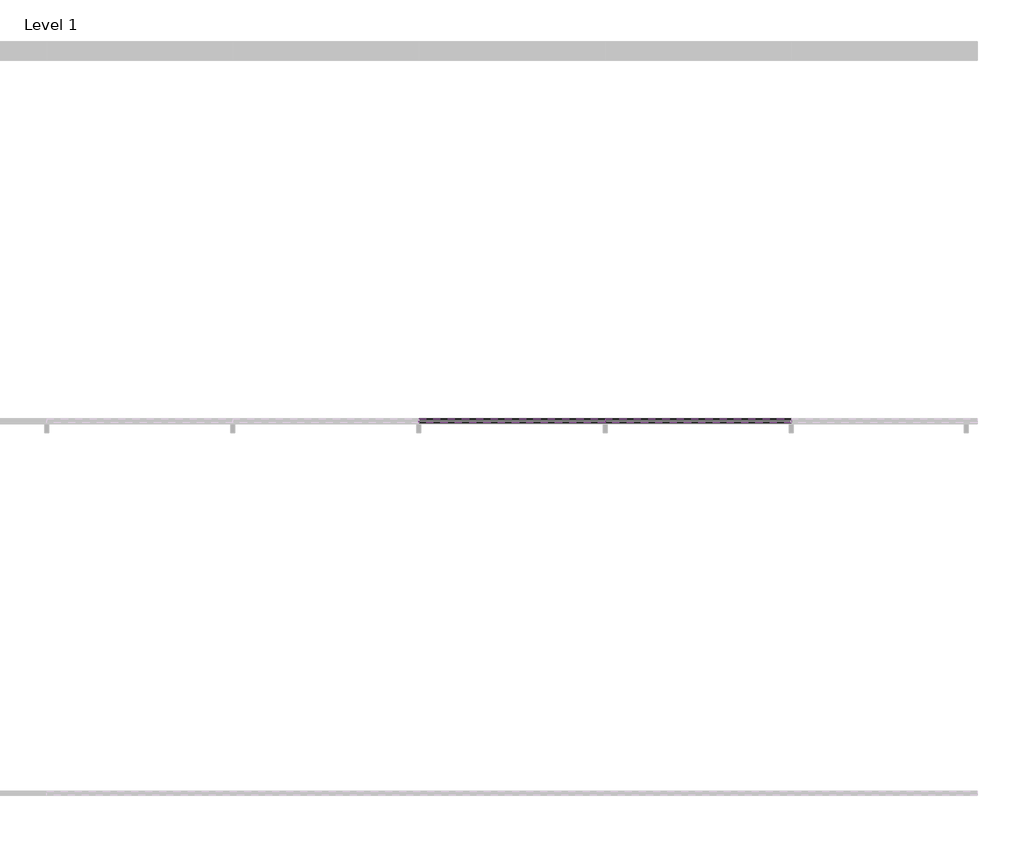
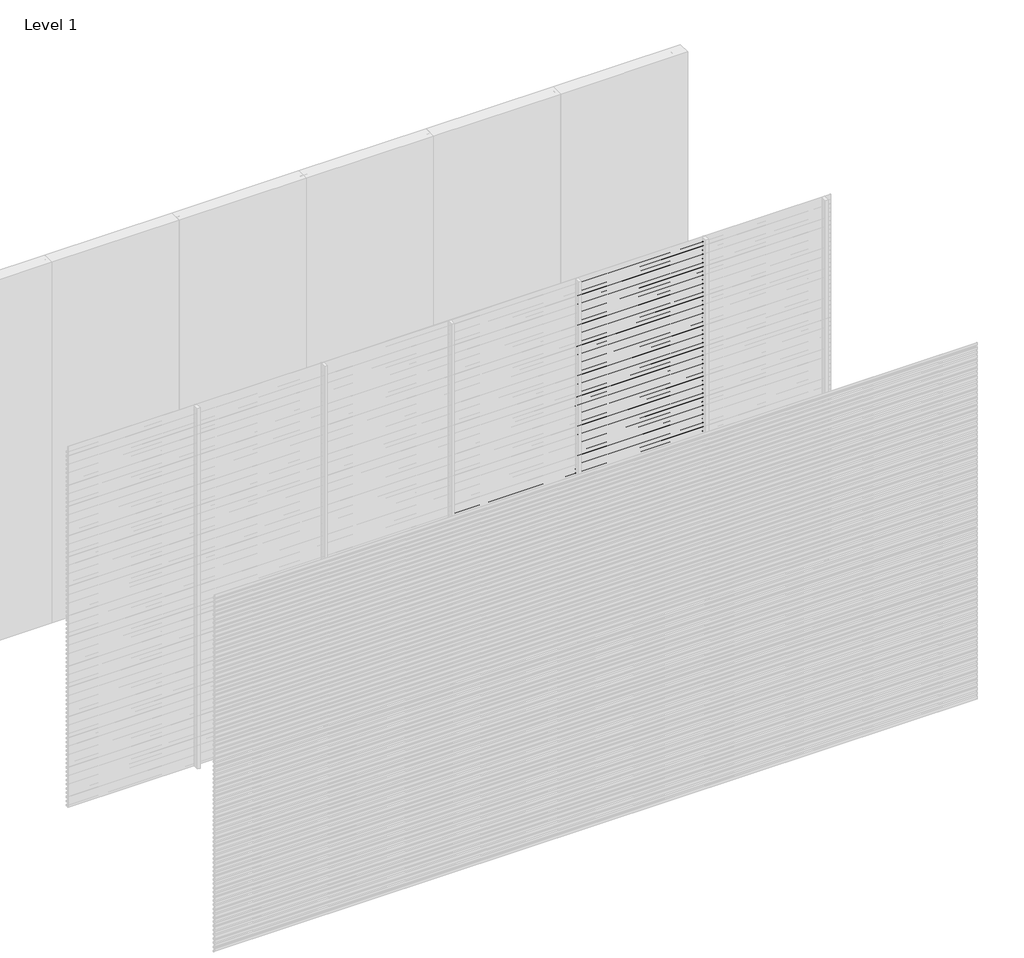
# One storey, part 18 of 25: 97 proxies.
"""IFC4 building model written with IfcOpenShell, lengths in millimetres."""

from ifc_helpers import new_model, si_unit, frame, origin, place, context, project, spatial, polyline, outline, extrude, element, save

model = new_model("IFC4")

# Units and contexts
model_context = context("Model", 3, world=origin())
ifc_project = project(units=[si_unit("LENGTHUNIT", "METRE", prefix="MILLI")], contexts=[model_context])

# Site, building, storey
site = spatial("IfcSite", under=ifc_project)
building = spatial("IfcBuilding", under=site)
storey = spatial("IfcBuildingStorey", under=building, Name="Level 1", Elevation=0.0)

# Proxies
placement = place(None, origin())
element("IfcBuildingElementProxy", 1, Name="Wall Sweeps", at=placement, inside=storey, context=model_context, shape_type="SweptSolid", body=[
    extrude(outline(polyline([(-5995.0, 1435.0), (-5995.0, 1423.942893), (-5976.0, 1408.0), (-5976.0, 1395.0), (-5997.0, 1412.6210923), (-5997.0, 1435.0), (-5995.0, 1435.0)])), frame((3000.0, 0.0, 0.0), z_axis=(1.0, 0.0, 0.0), x_axis=(0.0, 1.0, 0.0)), (0.0, 0.0, 1.0), 1000.0),
])
element("IfcBuildingElementProxy", 2, Name="Wall Sweeps", at=placement, inside=storey, context=model_context, shape_type="SweptSolid", body=[
    extrude(outline(polyline([(-5995.0, 1400.0), (-5995.0, 1388.942893), (-5976.0, 1373.0), (-5976.0, 1360.0), (-5997.0, 1377.6210923), (-5997.0, 1400.0), (-5995.0, 1400.0)])), frame((3000.0, 0.0, 0.0), z_axis=(1.0, 0.0, 0.0), x_axis=(0.0, 1.0, 0.0)), (0.0, 0.0, 1.0), 1000.0),
])
element("IfcBuildingElementProxy", 3, Name="Wall Sweeps", at=placement, inside=storey, context=model_context, shape_type="SweptSolid", body=[
    extrude(outline(polyline([(-5995.0, 1365.0), (-5995.0, 1353.942893), (-5976.0, 1338.0), (-5976.0, 1325.0), (-5997.0, 1342.6210923), (-5997.0, 1365.0), (-5995.0, 1365.0)])), frame((3000.0, 0.0, 0.0), z_axis=(1.0, 0.0, 0.0), x_axis=(0.0, 1.0, 0.0)), (0.0, 0.0, 1.0), 1000.0),
])
element("IfcBuildingElementProxy", 4, Name="Wall Sweeps", at=placement, inside=storey, context=model_context, shape_type="SweptSolid", body=[
    extrude(outline(polyline([(-5995.0, 1330.0), (-5995.0, 1318.942893), (-5976.0, 1303.0), (-5976.0, 1290.0), (-5997.0, 1307.6210923), (-5997.0, 1330.0), (-5995.0, 1330.0)])), frame((3000.0, 0.0, 0.0), z_axis=(1.0, 0.0, 0.0), x_axis=(0.0, 1.0, 0.0)), (0.0, 0.0, 1.0), 1000.0),
])
element("IfcBuildingElementProxy", 5, Name="Wall Sweeps", at=placement, inside=storey, context=model_context, shape_type="SweptSolid", body=[
    extrude(outline(polyline([(-5995.0, 1295.0), (-5995.0, 1283.942893), (-5976.0, 1268.0), (-5976.0, 1255.0), (-5997.0, 1272.6210923), (-5997.0, 1295.0), (-5995.0, 1295.0)])), frame((3000.0, 0.0, 0.0), z_axis=(1.0, 0.0, 0.0), x_axis=(0.0, 1.0, 0.0)), (0.0, 0.0, 1.0), 1000.0),
])
element("IfcBuildingElementProxy", 6, Name="Wall Sweeps", at=placement, inside=storey, context=model_context, shape_type="SweptSolid", body=[
    extrude(outline(polyline([(-5995.0, 1260.0), (-5995.0, 1248.942893), (-5976.0, 1233.0), (-5976.0, 1220.0), (-5997.0, 1237.6210923), (-5997.0, 1260.0), (-5995.0, 1260.0)])), frame((3000.0, 0.0, 0.0), z_axis=(1.0, 0.0, 0.0), x_axis=(0.0, 1.0, 0.0)), (0.0, 0.0, 1.0), 1000.0),
])
element("IfcBuildingElementProxy", 7, Name="Wall Sweeps", at=placement, inside=storey, context=model_context, shape_type="SweptSolid", body=[
    extrude(outline(polyline([(-5995.0, 1225.0), (-5995.0, 1213.942893), (-5976.0, 1198.0), (-5976.0, 1185.0), (-5997.0, 1202.6210923), (-5997.0, 1225.0), (-5995.0, 1225.0)])), frame((3000.0, 0.0, 0.0), z_axis=(1.0, 0.0, 0.0), x_axis=(0.0, 1.0, 0.0)), (0.0, 0.0, 1.0), 1000.0),
])
element("IfcBuildingElementProxy", 8, Name="Wall Sweeps", at=placement, inside=storey, context=model_context, shape_type="SweptSolid", body=[
    extrude(outline(polyline([(-5995.0, 1190.0), (-5995.0, 1178.942893), (-5976.0, 1163.0), (-5976.0, 1150.0), (-5997.0, 1167.6210923), (-5997.0, 1190.0), (-5995.0, 1190.0)])), frame((3000.0, 0.0, 0.0), z_axis=(1.0, 0.0, 0.0), x_axis=(0.0, 1.0, 0.0)), (0.0, 0.0, 1.0), 1000.0),
])
element("IfcBuildingElementProxy", 9, Name="Wall Sweeps", at=placement, inside=storey, context=model_context, shape_type="SweptSolid", body=[
    extrude(outline(polyline([(-5995.0, 1155.0), (-5995.0, 1143.942893), (-5976.0, 1128.0), (-5976.0, 1115.0), (-5997.0, 1132.6210923), (-5997.0, 1155.0), (-5995.0, 1155.0)])), frame((3000.0, 0.0, 0.0), z_axis=(1.0, 0.0, 0.0), x_axis=(0.0, 1.0, 0.0)), (0.0, 0.0, 1.0), 1000.0),
])
element("IfcBuildingElementProxy", 10, Name="Wall Sweeps", at=placement, inside=storey, context=model_context, shape_type="SweptSolid", body=[
    extrude(outline(polyline([(-5995.0, 1120.0), (-5995.0, 1108.942893), (-5976.0, 1093.0), (-5976.0, 1080.0), (-5997.0, 1097.6210923), (-5997.0, 1120.0), (-5995.0, 1120.0)])), frame((3000.0, 0.0, 0.0), z_axis=(1.0, 0.0, 0.0), x_axis=(0.0, 1.0, 0.0)), (0.0, 0.0, 1.0), 1000.0),
])
element("IfcBuildingElementProxy", 11, Name="Wall Sweeps", at=placement, inside=storey, context=model_context, shape_type="SweptSolid", body=[
    extrude(outline(polyline([(-5995.0, 1085.0), (-5995.0, 1073.942893), (-5976.0, 1058.0), (-5976.0, 1045.0), (-5997.0, 1062.6210923), (-5997.0, 1085.0), (-5995.0, 1085.0)])), frame((3000.0, 0.0, 0.0), z_axis=(1.0, 0.0, 0.0), x_axis=(0.0, 1.0, 0.0)), (0.0, 0.0, 1.0), 1000.0),
])
element("IfcBuildingElementProxy", 12, Name="Wall Sweeps", at=placement, inside=storey, context=model_context, shape_type="SweptSolid", body=[
    extrude(outline(polyline([(-5995.0, 1050.0), (-5995.0, 1038.942893), (-5976.0, 1023.0), (-5976.0, 1010.0), (-5997.0, 1027.6210923), (-5997.0, 1050.0), (-5995.0, 1050.0)])), frame((3000.0, 0.0, 0.0), z_axis=(1.0, 0.0, 0.0), x_axis=(0.0, 1.0, 0.0)), (0.0, 0.0, 1.0), 1000.0),
])
element("IfcBuildingElementProxy", 13, Name="Wall Sweeps", at=placement, inside=storey, context=model_context, shape_type="SweptSolid", body=[
    extrude(outline(polyline([(-5995.0, 1015.0), (-5995.0, 1003.942893), (-5976.0, 988.0), (-5976.0, 975.0), (-5997.0, 992.6210923), (-5997.0, 1015.0), (-5995.0, 1015.0)])), frame((3000.0, 0.0, 0.0), z_axis=(1.0, 0.0, 0.0), x_axis=(0.0, 1.0, 0.0)), (0.0, 0.0, 1.0), 1000.0),
])
element("IfcBuildingElementProxy", 14, Name="Wall Sweeps", at=placement, inside=storey, context=model_context, shape_type="SweptSolid", body=[
    extrude(outline(polyline([(-5995.0, 980.0), (-5995.0, 968.942893), (-5976.0, 953.0), (-5976.0, 940.0), (-5997.0, 957.6210923), (-5997.0, 980.0), (-5995.0, 980.0)])), frame((3000.0, 0.0, 0.0), z_axis=(1.0, 0.0, 0.0), x_axis=(0.0, 1.0, 0.0)), (0.0, 0.0, 1.0), 1000.0),
])
element("IfcBuildingElementProxy", 15, Name="Wall Sweeps", at=placement, inside=storey, context=model_context, shape_type="SweptSolid", body=[
    extrude(outline(polyline([(-5995.0, 945.0), (-5995.0, 933.942893), (-5976.0, 918.0), (-5976.0, 905.0), (-5997.0, 922.6210923), (-5997.0, 945.0), (-5995.0, 945.0)])), frame((3000.0, 0.0, 0.0), z_axis=(1.0, 0.0, 0.0), x_axis=(0.0, 1.0, 0.0)), (0.0, 0.0, 1.0), 1000.0),
])
element("IfcBuildingElementProxy", 16, Name="Wall Sweeps", at=placement, inside=storey, context=model_context, shape_type="SweptSolid", body=[
    extrude(outline(polyline([(-5995.0, 910.0), (-5995.0, 898.942893), (-5976.0, 883.0), (-5976.0, 870.0), (-5997.0, 887.6210923), (-5997.0, 910.0), (-5995.0, 910.0)])), frame((3000.0, 0.0, 0.0), z_axis=(1.0, 0.0, 0.0), x_axis=(0.0, 1.0, 0.0)), (0.0, 0.0, 1.0), 1000.0),
])
element("IfcBuildingElementProxy", 17, Name="Wall Sweeps", at=placement, inside=storey, context=model_context, shape_type="SweptSolid", body=[
    extrude(outline(polyline([(-5995.0, 875.0), (-5995.0, 863.942893), (-5976.0, 848.0), (-5976.0, 835.0), (-5997.0, 852.6210923), (-5997.0, 875.0), (-5995.0, 875.0)])), frame((3000.0, 0.0, 0.0), z_axis=(1.0, 0.0, 0.0), x_axis=(0.0, 1.0, 0.0)), (0.0, 0.0, 1.0), 1000.0),
])
element("IfcBuildingElementProxy", 18, Name="Wall Sweeps", at=placement, inside=storey, context=model_context, shape_type="SweptSolid", body=[
    extrude(outline(polyline([(-5995.0, 840.0), (-5995.0, 828.942893), (-5976.0, 813.0), (-5976.0, 800.0), (-5997.0, 817.6210923), (-5997.0, 840.0), (-5995.0, 840.0)])), frame((3000.0, 0.0, 0.0), z_axis=(1.0, 0.0, 0.0), x_axis=(0.0, 1.0, 0.0)), (0.0, 0.0, 1.0), 1000.0),
])
element("IfcBuildingElementProxy", 19, Name="Wall Sweeps", at=placement, inside=storey, context=model_context, shape_type="SweptSolid", body=[
    extrude(outline(polyline([(-5995.0, 805.0), (-5995.0, 793.942893), (-5976.0, 778.0), (-5976.0, 765.0), (-5997.0, 782.6210923), (-5997.0, 805.0), (-5995.0, 805.0)])), frame((3000.0, 0.0, 0.0), z_axis=(1.0, 0.0, 0.0), x_axis=(0.0, 1.0, 0.0)), (0.0, 0.0, 1.0), 1000.0),
])
element("IfcBuildingElementProxy", 20, Name="Wall Sweeps", at=placement, inside=storey, context=model_context, shape_type="SweptSolid", body=[
    extrude(outline(polyline([(-5995.0, 770.0), (-5995.0, 758.942893), (-5976.0, 743.0), (-5976.0, 730.0), (-5997.0, 747.6210923), (-5997.0, 770.0), (-5995.0, 770.0)])), frame((3000.0, 0.0, 0.0), z_axis=(1.0, 0.0, 0.0), x_axis=(0.0, 1.0, 0.0)), (0.0, 0.0, 1.0), 1000.0),
])
element("IfcBuildingElementProxy", 21, Name="Wall Sweeps", at=placement, inside=storey, context=model_context, shape_type="SweptSolid", body=[
    extrude(outline(polyline([(-5995.0, 735.0), (-5995.0, 723.942893), (-5976.0, 708.0), (-5976.0, 695.0), (-5997.0, 712.6210923), (-5997.0, 735.0), (-5995.0, 735.0)])), frame((3000.0, 0.0, 0.0), z_axis=(1.0, 0.0, 0.0), x_axis=(0.0, 1.0, 0.0)), (0.0, 0.0, 1.0), 1000.0),
])
element("IfcBuildingElementProxy", 22, Name="Wall Sweeps", at=placement, inside=storey, context=model_context, shape_type="SweptSolid", body=[
    extrude(outline(polyline([(-5995.0, 700.0), (-5995.0, 688.942893), (-5976.0, 673.0), (-5976.0, 660.0), (-5997.0, 677.6210923), (-5997.0, 700.0), (-5995.0, 700.0)])), frame((3000.0, 0.0, 0.0), z_axis=(1.0, 0.0, 0.0), x_axis=(0.0, 1.0, 0.0)), (0.0, 0.0, 1.0), 1000.0),
])
element("IfcBuildingElementProxy", 23, Name="Wall Sweeps", at=placement, inside=storey, context=model_context, shape_type="SweptSolid", body=[
    extrude(outline(polyline([(-5995.0, 665.0), (-5995.0, 653.942893), (-5976.0, 638.0), (-5976.0, 625.0), (-5997.0, 642.6210923), (-5997.0, 665.0), (-5995.0, 665.0)])), frame((3000.0, 0.0, 0.0), z_axis=(1.0, 0.0, 0.0), x_axis=(0.0, 1.0, 0.0)), (0.0, 0.0, 1.0), 1000.0),
])
element("IfcBuildingElementProxy", 24, Name="Wall Sweeps", at=placement, inside=storey, context=model_context, shape_type="SweptSolid", body=[
    extrude(outline(polyline([(-5995.0, 630.0), (-5995.0, 618.942893), (-5976.0, 603.0), (-5976.0, 590.0), (-5997.0, 607.6210923), (-5997.0, 630.0), (-5995.0, 630.0)])), frame((3000.0, 0.0, 0.0), z_axis=(1.0, 0.0, 0.0), x_axis=(0.0, 1.0, 0.0)), (0.0, 0.0, 1.0), 1000.0),
])
element("IfcBuildingElementProxy", 25, Name="Wall Sweeps", at=placement, inside=storey, context=model_context, shape_type="SweptSolid", body=[
    extrude(outline(polyline([(-5995.0, 595.0), (-5995.0, 583.942893), (-5976.0, 568.0), (-5976.0, 555.0), (-5997.0, 572.6210923), (-5997.0, 595.0), (-5995.0, 595.0)])), frame((3000.0, 0.0, 0.0), z_axis=(1.0, 0.0, 0.0), x_axis=(0.0, 1.0, 0.0)), (0.0, 0.0, 1.0), 1000.0),
])
element("IfcBuildingElementProxy", 26, Name="Wall Sweeps", at=placement, inside=storey, context=model_context, shape_type="SweptSolid", body=[
    extrude(outline(polyline([(-5995.0, 560.0), (-5995.0, 548.942893), (-5976.0, 533.0), (-5976.0, 520.0), (-5997.0, 537.6210923), (-5997.0, 560.0), (-5995.0, 560.0)])), frame((3000.0, 0.0, 0.0), z_axis=(1.0, 0.0, 0.0), x_axis=(0.0, 1.0, 0.0)), (0.0, 0.0, 1.0), 1000.0),
])
element("IfcBuildingElementProxy", 27, Name="Wall Sweeps", at=placement, inside=storey, context=model_context, shape_type="SweptSolid", body=[
    extrude(outline(polyline([(-5995.0, 525.0), (-5995.0, 513.942893), (-5976.0, 498.0), (-5976.0, 485.0), (-5997.0, 502.6210923), (-5997.0, 525.0), (-5995.0, 525.0)])), frame((3000.0, 0.0, 0.0), z_axis=(1.0, 0.0, 0.0), x_axis=(0.0, 1.0, 0.0)), (0.0, 0.0, 1.0), 1000.0),
])
element("IfcBuildingElementProxy", 28, Name="Wall Sweeps", at=placement, inside=storey, context=model_context, shape_type="SweptSolid", body=[
    extrude(outline(polyline([(-5995.0, 490.0), (-5995.0, 478.942893), (-5976.0, 463.0), (-5976.0, 450.0), (-5997.0, 467.6210923), (-5997.0, 490.0), (-5995.0, 490.0)])), frame((3000.0, 0.0, 0.0), z_axis=(1.0, 0.0, 0.0), x_axis=(0.0, 1.0, 0.0)), (0.0, 0.0, 1.0), 1000.0),
])
element("IfcBuildingElementProxy", 29, Name="Wall Sweeps", at=placement, inside=storey, context=model_context, shape_type="SweptSolid", body=[
    extrude(outline(polyline([(-5995.0, 455.0), (-5995.0, 443.942893), (-5976.0, 428.0), (-5976.0, 415.0), (-5997.0, 432.6210923), (-5997.0, 455.0), (-5995.0, 455.0)])), frame((3000.0, 0.0, 0.0), z_axis=(1.0, 0.0, 0.0), x_axis=(0.0, 1.0, 0.0)), (0.0, 0.0, 1.0), 1000.0),
])
element("IfcBuildingElementProxy", 30, Name="Wall Sweeps", at=placement, inside=storey, context=model_context, shape_type="SweptSolid", body=[
    extrude(outline(polyline([(-5995.0, 420.0), (-5995.0, 408.942893), (-5976.0, 393.0), (-5976.0, 380.0), (-5997.0, 397.6210923), (-5997.0, 420.0), (-5995.0, 420.0)])), frame((3000.0, 0.0, 0.0), z_axis=(1.0, 0.0, 0.0), x_axis=(0.0, 1.0, 0.0)), (0.0, 0.0, 1.0), 1000.0),
])
element("IfcBuildingElementProxy", 31, Name="Wall Sweeps", at=placement, inside=storey, context=model_context, shape_type="SweptSolid", body=[
    extrude(outline(polyline([(-5995.0, 385.0), (-5995.0, 373.942893), (-5976.0, 358.0), (-5976.0, 345.0), (-5997.0, 362.6210923), (-5997.0, 385.0), (-5995.0, 385.0)])), frame((3000.0, 0.0, 0.0), z_axis=(1.0, 0.0, 0.0), x_axis=(0.0, 1.0, 0.0)), (0.0, 0.0, 1.0), 1000.0),
])
element("IfcBuildingElementProxy", 32, Name="Wall Sweeps", at=placement, inside=storey, context=model_context, shape_type="SweptSolid", body=[
    extrude(outline(polyline([(-5995.0, 350.0), (-5995.0, 338.942893), (-5976.0, 323.0), (-5976.0, 310.0), (-5997.0, 327.6210923), (-5997.0, 350.0), (-5995.0, 350.0)])), frame((3000.0, 0.0, 0.0), z_axis=(1.0, 0.0, 0.0), x_axis=(0.0, 1.0, 0.0)), (0.0, 0.0, 1.0), 1000.0),
])
element("IfcBuildingElementProxy", 33, Name="Wall Sweeps", at=placement, inside=storey, context=model_context, shape_type="SweptSolid", body=[
    extrude(outline(polyline([(-5995.0, 315.0), (-5995.0, 303.942893), (-5976.0, 288.0), (-5976.0, 275.0), (-5997.0, 292.6210923), (-5997.0, 315.0), (-5995.0, 315.0)])), frame((3000.0, 0.0, 0.0), z_axis=(1.0, 0.0, 0.0), x_axis=(0.0, 1.0, 0.0)), (0.0, 0.0, 1.0), 1000.0),
])
element("IfcBuildingElementProxy", 34, Name="Wall Sweeps", at=placement, inside=storey, context=model_context, shape_type="SweptSolid", body=[
    extrude(outline(polyline([(-5995.0, 280.0), (-5995.0, 268.942893), (-5976.0, 253.0), (-5976.0, 240.0), (-5997.0, 257.6210923), (-5997.0, 280.0), (-5995.0, 280.0)])), frame((3000.0, 0.0, 0.0), z_axis=(1.0, 0.0, 0.0), x_axis=(0.0, 1.0, 0.0)), (0.0, 0.0, 1.0), 1000.0),
])
element("IfcBuildingElementProxy", 35, Name="Wall Sweeps", at=placement, inside=storey, context=model_context, shape_type="SweptSolid", body=[
    extrude(outline(polyline([(-5995.0, 245.0), (-5995.0, 233.942893), (-5976.0, 218.0), (-5976.0, 205.0), (-5997.0, 222.6210923), (-5997.0, 245.0), (-5995.0, 245.0)])), frame((3000.0, 0.0, 0.0), z_axis=(1.0, 0.0, 0.0), x_axis=(0.0, 1.0, 0.0)), (0.0, 0.0, 1.0), 1000.0),
])
element("IfcBuildingElementProxy", 36, Name="Wall Sweeps", at=placement, inside=storey, context=model_context, shape_type="SweptSolid", body=[
    extrude(outline(polyline([(-5995.0, 210.0), (-5995.0, 198.942893), (-5976.0, 183.0), (-5976.0, 170.0), (-5997.0, 187.6210923), (-5997.0, 210.0), (-5995.0, 210.0)])), frame((3000.0, 0.0, 0.0), z_axis=(1.0, 0.0, 0.0), x_axis=(0.0, 1.0, 0.0)), (0.0, 0.0, 1.0), 1000.0),
])
element("IfcBuildingElementProxy", 37, Name="Wall Sweeps", at=placement, inside=storey, context=model_context, shape_type="SweptSolid", body=[
    extrude(outline(polyline([(-5995.0, 175.0), (-5995.0, 163.942893), (-5976.0, 148.0), (-5976.0, 135.0), (-5997.0, 152.6210923), (-5997.0, 175.0), (-5995.0, 175.0)])), frame((3000.0, 0.0, 0.0), z_axis=(1.0, 0.0, 0.0), x_axis=(0.0, 1.0, 0.0)), (0.0, 0.0, 1.0), 1000.0),
])
element("IfcBuildingElementProxy", 38, Name="Wall Sweeps", at=placement, inside=storey, context=model_context, shape_type="SweptSolid", body=[
    extrude(outline(polyline([(-5995.0, 140.0), (-5995.0, 128.942893), (-5976.0, 113.0), (-5976.0, 100.0), (-5997.0, 117.6210923), (-5997.0, 140.0), (-5995.0, 140.0)])), frame((3000.0, 0.0, 0.0), z_axis=(1.0, 0.0, 0.0), x_axis=(0.0, 1.0, 0.0)), (0.0, 0.0, 1.0), 1000.0),
])
element("IfcBuildingElementProxy", 39, Name="Wall Sweeps", at=placement, inside=storey, context=model_context, shape_type="SweptSolid", body=[
    extrude(outline(polyline([(-5995.0, 105.0), (-5995.0, 93.942893), (-5976.0, 78.0), (-5976.0, 65.0), (-5997.0, 82.6210923), (-5997.0, 105.0), (-5995.0, 105.0)])), frame((3000.0, 0.0, 0.0), z_axis=(1.0, 0.0, 0.0), x_axis=(0.0, 1.0, 0.0)), (0.0, 0.0, 1.0), 1000.0),
])
element("IfcBuildingElementProxy", 40, Name="Wall Sweeps", at=placement, inside=storey, context=model_context, shape_type="SweptSolid", body=[
    extrude(outline(polyline([(-5995.0, 70.0), (-5995.0, 58.942893), (-5976.0, 43.0), (-5976.0, 30.0), (-5997.0, 47.6210923), (-5997.0, 70.0), (-5995.0, 70.0)])), frame((3000.0, 0.0, 0.0), z_axis=(1.0, 0.0, 0.0), x_axis=(0.0, 1.0, 0.0)), (0.0, 0.0, 1.0), 1000.0),
])
element("IfcBuildingElementProxy", 41, Name="Wall Sweeps", at=placement, inside=storey, context=model_context, shape_type="SweptSolid", body=[
    extrude(outline(polyline([(-5995.0, 35.0), (-5995.0, 23.942893), (-5976.0, 8.0), (-5976.0, -5.0), (-5997.0, 12.6210923), (-5997.0, 35.0), (-5995.0, 35.0)])), frame((3000.0, 0.0, 0.0), z_axis=(1.0, 0.0, 0.0), x_axis=(0.0, 1.0, 0.0)), (0.0, 0.0, 1.0), 1000.0),
])
element("IfcBuildingElementProxy", 42, Name="Wall Sweeps", at=placement, inside=storey, context=model_context, shape_type="SweptSolid", body=[
    extrude(outline(polyline([(-5995.0, 2975.0), (-5995.0, 2963.942893), (-5976.0, 2948.0), (-5976.0, 2935.0), (-5997.0, 2952.6210923), (-5997.0, 2975.0), (-5995.0, 2975.0)])), frame((4000.0, 0.0, 0.0), z_axis=(1.0, 0.0, 0.0), x_axis=(0.0, 1.0, 0.0)), (0.0, 0.0, 1.0), 1000.0),
])
element("IfcBuildingElementProxy", 43, Name="Wall Sweeps", at=placement, inside=storey, context=model_context, shape_type="SweptSolid", body=[
    extrude(outline(polyline([(-5995.0, 2940.0), (-5995.0, 2928.942893), (-5976.0, 2913.0), (-5976.0, 2900.0), (-5997.0, 2917.6210923), (-5997.0, 2940.0), (-5995.0, 2940.0)])), frame((4000.0, 0.0, 0.0), z_axis=(1.0, 0.0, 0.0), x_axis=(0.0, 1.0, 0.0)), (0.0, 0.0, 1.0), 1000.0),
])
element("IfcBuildingElementProxy", 44, Name="Wall Sweeps", at=placement, inside=storey, context=model_context, shape_type="SweptSolid", body=[
    extrude(outline(polyline([(-5995.0, 2905.0), (-5995.0, 2893.942893), (-5976.0, 2878.0), (-5976.0, 2865.0), (-5997.0, 2882.6210923), (-5997.0, 2905.0), (-5995.0, 2905.0)])), frame((4000.0, 0.0, 0.0), z_axis=(1.0, 0.0, 0.0), x_axis=(0.0, 1.0, 0.0)), (0.0, 0.0, 1.0), 1000.0),
])
element("IfcBuildingElementProxy", 45, Name="Wall Sweeps", at=placement, inside=storey, context=model_context, shape_type="SweptSolid", body=[
    extrude(outline(polyline([(-5995.0, 2870.0), (-5995.0, 2858.942893), (-5976.0, 2843.0), (-5976.0, 2830.0), (-5997.0, 2847.6210923), (-5997.0, 2870.0), (-5995.0, 2870.0)])), frame((4000.0, 0.0, 0.0), z_axis=(1.0, 0.0, 0.0), x_axis=(0.0, 1.0, 0.0)), (0.0, 0.0, 1.0), 1000.0),
])
element("IfcBuildingElementProxy", 46, Name="Wall Sweeps", at=placement, inside=storey, context=model_context, shape_type="SweptSolid", body=[
    extrude(outline(polyline([(-5995.0, 2835.0), (-5995.0, 2823.942893), (-5976.0, 2808.0), (-5976.0, 2795.0), (-5997.0, 2812.6210923), (-5997.0, 2835.0), (-5995.0, 2835.0)])), frame((4000.0, 0.0, 0.0), z_axis=(1.0, 0.0, 0.0), x_axis=(0.0, 1.0, 0.0)), (0.0, 0.0, 1.0), 1000.0),
])
element("IfcBuildingElementProxy", 47, Name="Wall Sweeps", at=placement, inside=storey, context=model_context, shape_type="SweptSolid", body=[
    extrude(outline(polyline([(-5995.0, 2800.0), (-5995.0, 2788.942893), (-5976.0, 2773.0), (-5976.0, 2760.0), (-5997.0, 2777.6210923), (-5997.0, 2800.0), (-5995.0, 2800.0)])), frame((4000.0, 0.0, 0.0), z_axis=(1.0, 0.0, 0.0), x_axis=(0.0, 1.0, 0.0)), (0.0, 0.0, 1.0), 1000.0),
])
element("IfcBuildingElementProxy", 48, Name="Wall Sweeps", at=placement, inside=storey, context=model_context, shape_type="SweptSolid", body=[
    extrude(outline(polyline([(-5995.0, 2765.0), (-5995.0, 2753.942893), (-5976.0, 2738.0), (-5976.0, 2725.0), (-5997.0, 2742.6210923), (-5997.0, 2765.0), (-5995.0, 2765.0)])), frame((4000.0, 0.0, 0.0), z_axis=(1.0, 0.0, 0.0), x_axis=(0.0, 1.0, 0.0)), (0.0, 0.0, 1.0), 1000.0),
])
element("IfcBuildingElementProxy", 49, Name="Wall Sweeps", at=placement, inside=storey, context=model_context, shape_type="SweptSolid", body=[
    extrude(outline(polyline([(-5995.0, 2730.0), (-5995.0, 2718.942893), (-5976.0, 2703.0), (-5976.0, 2690.0), (-5997.0, 2707.6210923), (-5997.0, 2730.0), (-5995.0, 2730.0)])), frame((4000.0, 0.0, 0.0), z_axis=(1.0, 0.0, 0.0), x_axis=(0.0, 1.0, 0.0)), (0.0, 0.0, 1.0), 1000.0),
])
element("IfcBuildingElementProxy", 50, Name="Wall Sweeps", at=placement, inside=storey, context=model_context, shape_type="SweptSolid", body=[
    extrude(outline(polyline([(-5995.0, 2695.0), (-5995.0, 2683.942893), (-5976.0, 2668.0), (-5976.0, 2655.0), (-5997.0, 2672.6210923), (-5997.0, 2695.0), (-5995.0, 2695.0)])), frame((4000.0, 0.0, 0.0), z_axis=(1.0, 0.0, 0.0), x_axis=(0.0, 1.0, 0.0)), (0.0, 0.0, 1.0), 1000.0),
])
element("IfcBuildingElementProxy", 51, Name="Wall Sweeps", at=placement, inside=storey, context=model_context, shape_type="SweptSolid", body=[
    extrude(outline(polyline([(-5995.0, 2660.0), (-5995.0, 2648.942893), (-5976.0, 2633.0), (-5976.0, 2620.0), (-5997.0, 2637.6210923), (-5997.0, 2660.0), (-5995.0, 2660.0)])), frame((4000.0, 0.0, 0.0), z_axis=(1.0, 0.0, 0.0), x_axis=(0.0, 1.0, 0.0)), (0.0, 0.0, 1.0), 1000.0),
])
element("IfcBuildingElementProxy", 52, Name="Wall Sweeps", at=placement, inside=storey, context=model_context, shape_type="SweptSolid", body=[
    extrude(outline(polyline([(-5995.0, 2625.0), (-5995.0, 2613.942893), (-5976.0, 2598.0), (-5976.0, 2585.0), (-5997.0, 2602.6210923), (-5997.0, 2625.0), (-5995.0, 2625.0)])), frame((4000.0, 0.0, 0.0), z_axis=(1.0, 0.0, 0.0), x_axis=(0.0, 1.0, 0.0)), (0.0, 0.0, 1.0), 1000.0),
])
element("IfcBuildingElementProxy", 53, Name="Wall Sweeps", at=placement, inside=storey, context=model_context, shape_type="SweptSolid", body=[
    extrude(outline(polyline([(-5995.0, 2590.0), (-5995.0, 2578.942893), (-5976.0, 2563.0), (-5976.0, 2550.0), (-5997.0, 2567.6210923), (-5997.0, 2590.0), (-5995.0, 2590.0)])), frame((4000.0, 0.0, 0.0), z_axis=(1.0, 0.0, 0.0), x_axis=(0.0, 1.0, 0.0)), (0.0, 0.0, 1.0), 1000.0),
])
element("IfcBuildingElementProxy", 54, Name="Wall Sweeps", at=placement, inside=storey, context=model_context, shape_type="SweptSolid", body=[
    extrude(outline(polyline([(-5995.0, 2555.0), (-5995.0, 2543.942893), (-5976.0, 2528.0), (-5976.0, 2515.0), (-5997.0, 2532.6210923), (-5997.0, 2555.0), (-5995.0, 2555.0)])), frame((4000.0, 0.0, 0.0), z_axis=(1.0, 0.0, 0.0), x_axis=(0.0, 1.0, 0.0)), (0.0, 0.0, 1.0), 1000.0),
])
element("IfcBuildingElementProxy", 55, Name="Wall Sweeps", at=placement, inside=storey, context=model_context, shape_type="SweptSolid", body=[
    extrude(outline(polyline([(-5995.0, 2520.0), (-5995.0, 2508.942893), (-5976.0, 2493.0), (-5976.0, 2480.0), (-5997.0, 2497.6210923), (-5997.0, 2520.0), (-5995.0, 2520.0)])), frame((4000.0, 0.0, 0.0), z_axis=(1.0, 0.0, 0.0), x_axis=(0.0, 1.0, 0.0)), (0.0, 0.0, 1.0), 1000.0),
])
element("IfcBuildingElementProxy", 56, Name="Wall Sweeps", at=placement, inside=storey, context=model_context, shape_type="SweptSolid", body=[
    extrude(outline(polyline([(-5995.0, 2485.0), (-5995.0, 2473.942893), (-5976.0, 2458.0), (-5976.0, 2445.0), (-5997.0, 2462.6210923), (-5997.0, 2485.0), (-5995.0, 2485.0)])), frame((4000.0, 0.0, 0.0), z_axis=(1.0, 0.0, 0.0), x_axis=(0.0, 1.0, 0.0)), (0.0, 0.0, 1.0), 1000.0),
])
element("IfcBuildingElementProxy", 57, Name="Wall Sweeps", at=placement, inside=storey, context=model_context, shape_type="SweptSolid", body=[
    extrude(outline(polyline([(-5995.0, 2450.0), (-5995.0, 2438.942893), (-5976.0, 2423.0), (-5976.0, 2410.0), (-5997.0, 2427.6210923), (-5997.0, 2450.0), (-5995.0, 2450.0)])), frame((4000.0, 0.0, 0.0), z_axis=(1.0, 0.0, 0.0), x_axis=(0.0, 1.0, 0.0)), (0.0, 0.0, 1.0), 1000.0),
])
element("IfcBuildingElementProxy", 58, Name="Wall Sweeps", at=placement, inside=storey, context=model_context, shape_type="SweptSolid", body=[
    extrude(outline(polyline([(-5995.0, 2415.0), (-5995.0, 2403.942893), (-5976.0, 2388.0), (-5976.0, 2375.0), (-5997.0, 2392.6210923), (-5997.0, 2415.0), (-5995.0, 2415.0)])), frame((4000.0, 0.0, 0.0), z_axis=(1.0, 0.0, 0.0), x_axis=(0.0, 1.0, 0.0)), (0.0, 0.0, 1.0), 1000.0),
])
element("IfcBuildingElementProxy", 59, Name="Wall Sweeps", at=placement, inside=storey, context=model_context, shape_type="SweptSolid", body=[
    extrude(outline(polyline([(-5995.0, 2380.0), (-5995.0, 2368.942893), (-5976.0, 2353.0), (-5976.0, 2340.0), (-5997.0, 2357.6210923), (-5997.0, 2380.0), (-5995.0, 2380.0)])), frame((4000.0, 0.0, 0.0), z_axis=(1.0, 0.0, 0.0), x_axis=(0.0, 1.0, 0.0)), (0.0, 0.0, 1.0), 1000.0),
])
element("IfcBuildingElementProxy", 60, Name="Wall Sweeps", at=placement, inside=storey, context=model_context, shape_type="SweptSolid", body=[
    extrude(outline(polyline([(-5995.0, 2345.0), (-5995.0, 2333.942893), (-5976.0, 2318.0), (-5976.0, 2305.0), (-5997.0, 2322.6210923), (-5997.0, 2345.0), (-5995.0, 2345.0)])), frame((4000.0, 0.0, 0.0), z_axis=(1.0, 0.0, 0.0), x_axis=(0.0, 1.0, 0.0)), (0.0, 0.0, 1.0), 1000.0),
])
element("IfcBuildingElementProxy", 61, Name="Wall Sweeps", at=placement, inside=storey, context=model_context, shape_type="SweptSolid", body=[
    extrude(outline(polyline([(-5995.0, 2310.0), (-5995.0, 2298.942893), (-5976.0, 2283.0), (-5976.0, 2270.0), (-5997.0, 2287.6210923), (-5997.0, 2310.0), (-5995.0, 2310.0)])), frame((4000.0, 0.0, 0.0), z_axis=(1.0, 0.0, 0.0), x_axis=(0.0, 1.0, 0.0)), (0.0, 0.0, 1.0), 1000.0),
])
element("IfcBuildingElementProxy", 62, Name="Wall Sweeps", at=placement, inside=storey, context=model_context, shape_type="SweptSolid", body=[
    extrude(outline(polyline([(-5995.0, 2275.0), (-5995.0, 2263.942893), (-5976.0, 2248.0), (-5976.0, 2235.0), (-5997.0, 2252.6210923), (-5997.0, 2275.0), (-5995.0, 2275.0)])), frame((4000.0, 0.0, 0.0), z_axis=(1.0, 0.0, 0.0), x_axis=(0.0, 1.0, 0.0)), (0.0, 0.0, 1.0), 1000.0),
])
element("IfcBuildingElementProxy", 63, Name="Wall Sweeps", at=placement, inside=storey, context=model_context, shape_type="SweptSolid", body=[
    extrude(outline(polyline([(-5995.0, 2240.0), (-5995.0, 2228.942893), (-5976.0, 2213.0), (-5976.0, 2200.0), (-5997.0, 2217.6210923), (-5997.0, 2240.0), (-5995.0, 2240.0)])), frame((4000.0, 0.0, 0.0), z_axis=(1.0, 0.0, 0.0), x_axis=(0.0, 1.0, 0.0)), (0.0, 0.0, 1.0), 1000.0),
])
element("IfcBuildingElementProxy", 64, Name="Wall Sweeps", at=placement, inside=storey, context=model_context, shape_type="SweptSolid", body=[
    extrude(outline(polyline([(-5995.0, 2205.0), (-5995.0, 2193.942893), (-5976.0, 2178.0), (-5976.0, 2165.0), (-5997.0, 2182.6210923), (-5997.0, 2205.0), (-5995.0, 2205.0)])), frame((4000.0, 0.0, 0.0), z_axis=(1.0, 0.0, 0.0), x_axis=(0.0, 1.0, 0.0)), (0.0, 0.0, 1.0), 1000.0),
])
element("IfcBuildingElementProxy", 65, Name="Wall Sweeps", at=placement, inside=storey, context=model_context, shape_type="SweptSolid", body=[
    extrude(outline(polyline([(-5995.0, 2170.0), (-5995.0, 2158.942893), (-5976.0, 2143.0), (-5976.0, 2130.0), (-5997.0, 2147.6210923), (-5997.0, 2170.0), (-5995.0, 2170.0)])), frame((4000.0, 0.0, 0.0), z_axis=(1.0, 0.0, 0.0), x_axis=(0.0, 1.0, 0.0)), (0.0, 0.0, 1.0), 1000.0),
])
element("IfcBuildingElementProxy", 66, Name="Wall Sweeps", at=placement, inside=storey, context=model_context, shape_type="SweptSolid", body=[
    extrude(outline(polyline([(-5995.0, 2135.0), (-5995.0, 2123.942893), (-5976.0, 2108.0), (-5976.0, 2095.0), (-5997.0, 2112.6210923), (-5997.0, 2135.0), (-5995.0, 2135.0)])), frame((4000.0, 0.0, 0.0), z_axis=(1.0, 0.0, 0.0), x_axis=(0.0, 1.0, 0.0)), (0.0, 0.0, 1.0), 1000.0),
])
element("IfcBuildingElementProxy", 67, Name="Wall Sweeps", at=placement, inside=storey, context=model_context, shape_type="SweptSolid", body=[
    extrude(outline(polyline([(-5995.0, 2100.0), (-5995.0, 2088.942893), (-5976.0, 2073.0), (-5976.0, 2060.0), (-5997.0, 2077.6210923), (-5997.0, 2100.0), (-5995.0, 2100.0)])), frame((4000.0, 0.0, 0.0), z_axis=(1.0, 0.0, 0.0), x_axis=(0.0, 1.0, 0.0)), (0.0, 0.0, 1.0), 1000.0),
])
element("IfcBuildingElementProxy", 68, Name="Wall Sweeps", at=placement, inside=storey, context=model_context, shape_type="SweptSolid", body=[
    extrude(outline(polyline([(-5995.0, 2065.0), (-5995.0, 2053.942893), (-5976.0, 2038.0), (-5976.0, 2025.0), (-5997.0, 2042.6210923), (-5997.0, 2065.0), (-5995.0, 2065.0)])), frame((4000.0, 0.0, 0.0), z_axis=(1.0, 0.0, 0.0), x_axis=(0.0, 1.0, 0.0)), (0.0, 0.0, 1.0), 1000.0),
])
element("IfcBuildingElementProxy", 69, Name="Wall Sweeps", at=placement, inside=storey, context=model_context, shape_type="SweptSolid", body=[
    extrude(outline(polyline([(-5995.0, 2030.0), (-5995.0, 2018.942893), (-5976.0, 2003.0), (-5976.0, 1990.0), (-5997.0, 2007.6210923), (-5997.0, 2030.0), (-5995.0, 2030.0)])), frame((4000.0, 0.0, 0.0), z_axis=(1.0, 0.0, 0.0), x_axis=(0.0, 1.0, 0.0)), (0.0, 0.0, 1.0), 1000.0),
])
element("IfcBuildingElementProxy", 70, Name="Wall Sweeps", at=placement, inside=storey, context=model_context, shape_type="SweptSolid", body=[
    extrude(outline(polyline([(-5995.0, 1995.0), (-5995.0, 1983.942893), (-5976.0, 1968.0), (-5976.0, 1955.0), (-5997.0, 1972.6210923), (-5997.0, 1995.0), (-5995.0, 1995.0)])), frame((4000.0, 0.0, 0.0), z_axis=(1.0, 0.0, 0.0), x_axis=(0.0, 1.0, 0.0)), (0.0, 0.0, 1.0), 1000.0),
])
element("IfcBuildingElementProxy", 71, Name="Wall Sweeps", at=placement, inside=storey, context=model_context, shape_type="SweptSolid", body=[
    extrude(outline(polyline([(-5995.0, 1960.0), (-5995.0, 1948.942893), (-5976.0, 1933.0), (-5976.0, 1920.0), (-5997.0, 1937.6210923), (-5997.0, 1960.0), (-5995.0, 1960.0)])), frame((4000.0, 0.0, 0.0), z_axis=(1.0, 0.0, 0.0), x_axis=(0.0, 1.0, 0.0)), (0.0, 0.0, 1.0), 1000.0),
])
element("IfcBuildingElementProxy", 72, Name="Wall Sweeps", at=placement, inside=storey, context=model_context, shape_type="SweptSolid", body=[
    extrude(outline(polyline([(-5995.0, 1925.0), (-5995.0, 1913.942893), (-5976.0, 1898.0), (-5976.0, 1885.0), (-5997.0, 1902.6210923), (-5997.0, 1925.0), (-5995.0, 1925.0)])), frame((4000.0, 0.0, 0.0), z_axis=(1.0, 0.0, 0.0), x_axis=(0.0, 1.0, 0.0)), (0.0, 0.0, 1.0), 1000.0),
])
element("IfcBuildingElementProxy", 73, Name="Wall Sweeps", at=placement, inside=storey, context=model_context, shape_type="SweptSolid", body=[
    extrude(outline(polyline([(-5995.0, 1890.0), (-5995.0, 1878.942893), (-5976.0, 1863.0), (-5976.0, 1850.0), (-5997.0, 1867.6210923), (-5997.0, 1890.0), (-5995.0, 1890.0)])), frame((4000.0, 0.0, 0.0), z_axis=(1.0, 0.0, 0.0), x_axis=(0.0, 1.0, 0.0)), (0.0, 0.0, 1.0), 1000.0),
])
element("IfcBuildingElementProxy", 74, Name="Wall Sweeps", at=placement, inside=storey, context=model_context, shape_type="SweptSolid", body=[
    extrude(outline(polyline([(-5995.0, 1855.0), (-5995.0, 1843.942893), (-5976.0, 1828.0), (-5976.0, 1815.0), (-5997.0, 1832.6210923), (-5997.0, 1855.0), (-5995.0, 1855.0)])), frame((4000.0, 0.0, 0.0), z_axis=(1.0, 0.0, 0.0), x_axis=(0.0, 1.0, 0.0)), (0.0, 0.0, 1.0), 1000.0),
])
element("IfcBuildingElementProxy", 75, Name="Wall Sweeps", at=placement, inside=storey, context=model_context, shape_type="SweptSolid", body=[
    extrude(outline(polyline([(-5995.0, 1820.0), (-5995.0, 1808.942893), (-5976.0, 1793.0), (-5976.0, 1780.0), (-5997.0, 1797.6210923), (-5997.0, 1820.0), (-5995.0, 1820.0)])), frame((4000.0, 0.0, 0.0), z_axis=(1.0, 0.0, 0.0), x_axis=(0.0, 1.0, 0.0)), (0.0, 0.0, 1.0), 1000.0),
])
element("IfcBuildingElementProxy", 76, Name="Wall Sweeps", at=placement, inside=storey, context=model_context, shape_type="SweptSolid", body=[
    extrude(outline(polyline([(-5995.0, 1785.0), (-5995.0, 1773.942893), (-5976.0, 1758.0), (-5976.0, 1745.0), (-5997.0, 1762.6210923), (-5997.0, 1785.0), (-5995.0, 1785.0)])), frame((4000.0, 0.0, 0.0), z_axis=(1.0, 0.0, 0.0), x_axis=(0.0, 1.0, 0.0)), (0.0, 0.0, 1.0), 1000.0),
])
element("IfcBuildingElementProxy", 77, Name="Wall Sweeps", at=placement, inside=storey, context=model_context, shape_type="SweptSolid", body=[
    extrude(outline(polyline([(-5995.0, 1750.0), (-5995.0, 1738.942893), (-5976.0, 1723.0), (-5976.0, 1710.0), (-5997.0, 1727.6210923), (-5997.0, 1750.0), (-5995.0, 1750.0)])), frame((4000.0, 0.0, 0.0), z_axis=(1.0, 0.0, 0.0), x_axis=(0.0, 1.0, 0.0)), (0.0, 0.0, 1.0), 1000.0),
])
element("IfcBuildingElementProxy", 78, Name="Wall Sweeps", at=placement, inside=storey, context=model_context, shape_type="SweptSolid", body=[
    extrude(outline(polyline([(-5995.0, 1715.0), (-5995.0, 1703.942893), (-5976.0, 1688.0), (-5976.0, 1675.0), (-5997.0, 1692.6210923), (-5997.0, 1715.0), (-5995.0, 1715.0)])), frame((4000.0, 0.0, 0.0), z_axis=(1.0, 0.0, 0.0), x_axis=(0.0, 1.0, 0.0)), (0.0, 0.0, 1.0), 1000.0),
])
element("IfcBuildingElementProxy", 79, Name="Wall Sweeps", at=placement, inside=storey, context=model_context, shape_type="SweptSolid", body=[
    extrude(outline(polyline([(-5995.0, 1680.0), (-5995.0, 1668.942893), (-5976.0, 1653.0), (-5976.0, 1640.0), (-5997.0, 1657.6210923), (-5997.0, 1680.0), (-5995.0, 1680.0)])), frame((4000.0, 0.0, 0.0), z_axis=(1.0, 0.0, 0.0), x_axis=(0.0, 1.0, 0.0)), (0.0, 0.0, 1.0), 1000.0),
])
element("IfcBuildingElementProxy", 80, Name="Wall Sweeps", at=placement, inside=storey, context=model_context, shape_type="SweptSolid", body=[
    extrude(outline(polyline([(-5995.0, 1645.0), (-5995.0, 1633.942893), (-5976.0, 1618.0), (-5976.0, 1605.0), (-5997.0, 1622.6210923), (-5997.0, 1645.0), (-5995.0, 1645.0)])), frame((4000.0, 0.0, 0.0), z_axis=(1.0, 0.0, 0.0), x_axis=(0.0, 1.0, 0.0)), (0.0, 0.0, 1.0), 1000.0),
])
element("IfcBuildingElementProxy", 81, Name="Wall Sweeps", at=placement, inside=storey, context=model_context, shape_type="SweptSolid", body=[
    extrude(outline(polyline([(-5995.0, 1610.0), (-5995.0, 1598.942893), (-5976.0, 1583.0), (-5976.0, 1570.0), (-5997.0, 1587.6210923), (-5997.0, 1610.0), (-5995.0, 1610.0)])), frame((4000.0, 0.0, 0.0), z_axis=(1.0, 0.0, 0.0), x_axis=(0.0, 1.0, 0.0)), (0.0, 0.0, 1.0), 1000.0),
])
element("IfcBuildingElementProxy", 82, Name="Wall Sweeps", at=placement, inside=storey, context=model_context, shape_type="SweptSolid", body=[
    extrude(outline(polyline([(-5995.0, 1575.0), (-5995.0, 1563.942893), (-5976.0, 1548.0), (-5976.0, 1535.0), (-5997.0, 1552.6210923), (-5997.0, 1575.0), (-5995.0, 1575.0)])), frame((4000.0, 0.0, 0.0), z_axis=(1.0, 0.0, 0.0), x_axis=(0.0, 1.0, 0.0)), (0.0, 0.0, 1.0), 1000.0),
])
element("IfcBuildingElementProxy", 83, Name="Wall Sweeps", at=placement, inside=storey, context=model_context, shape_type="SweptSolid", body=[
    extrude(outline(polyline([(-5995.0, 1540.0), (-5995.0, 1528.942893), (-5976.0, 1513.0), (-5976.0, 1500.0), (-5997.0, 1517.6210923), (-5997.0, 1540.0), (-5995.0, 1540.0)])), frame((4000.0, 0.0, 0.0), z_axis=(1.0, 0.0, 0.0), x_axis=(0.0, 1.0, 0.0)), (0.0, 0.0, 1.0), 1000.0),
])
element("IfcBuildingElementProxy", 84, Name="Wall Sweeps", at=placement, inside=storey, context=model_context, shape_type="SweptSolid", body=[
    extrude(outline(polyline([(-5995.0, 1505.0), (-5995.0, 1493.942893), (-5976.0, 1478.0), (-5976.0, 1465.0), (-5997.0, 1482.6210923), (-5997.0, 1505.0), (-5995.0, 1505.0)])), frame((4000.0, 0.0, 0.0), z_axis=(1.0, 0.0, 0.0), x_axis=(0.0, 1.0, 0.0)), (0.0, 0.0, 1.0), 1000.0),
])
element("IfcBuildingElementProxy", 85, Name="Wall Sweeps", at=placement, inside=storey, context=model_context, shape_type="SweptSolid", body=[
    extrude(outline(polyline([(-5995.0, 1470.0), (-5995.0, 1458.942893), (-5976.0, 1443.0), (-5976.0, 1430.0), (-5997.0, 1447.6210923), (-5997.0, 1470.0), (-5995.0, 1470.0)])), frame((4000.0, 0.0, 0.0), z_axis=(1.0, 0.0, 0.0), x_axis=(0.0, 1.0, 0.0)), (0.0, 0.0, 1.0), 1000.0),
])
element("IfcBuildingElementProxy", 86, Name="Wall Sweeps", at=placement, inside=storey, context=model_context, shape_type="SweptSolid", body=[
    extrude(outline(polyline([(-5995.0, 1435.0), (-5995.0, 1423.942893), (-5976.0, 1408.0), (-5976.0, 1395.0), (-5997.0, 1412.6210923), (-5997.0, 1435.0), (-5995.0, 1435.0)])), frame((4000.0, 0.0, 0.0), z_axis=(1.0, 0.0, 0.0), x_axis=(0.0, 1.0, 0.0)), (0.0, 0.0, 1.0), 1000.0),
])
element("IfcBuildingElementProxy", 87, Name="Wall Sweeps", at=placement, inside=storey, context=model_context, shape_type="SweptSolid", body=[
    extrude(outline(polyline([(-5995.0, 1400.0), (-5995.0, 1388.942893), (-5976.0, 1373.0), (-5976.0, 1360.0), (-5997.0, 1377.6210923), (-5997.0, 1400.0), (-5995.0, 1400.0)])), frame((4000.0, 0.0, 0.0), z_axis=(1.0, 0.0, 0.0), x_axis=(0.0, 1.0, 0.0)), (0.0, 0.0, 1.0), 1000.0),
])
element("IfcBuildingElementProxy", 88, Name="Wall Sweeps", at=placement, inside=storey, context=model_context, shape_type="SweptSolid", body=[
    extrude(outline(polyline([(-5995.0, 1365.0), (-5995.0, 1353.942893), (-5976.0, 1338.0), (-5976.0, 1325.0), (-5997.0, 1342.6210923), (-5997.0, 1365.0), (-5995.0, 1365.0)])), frame((4000.0, 0.0, 0.0), z_axis=(1.0, 0.0, 0.0), x_axis=(0.0, 1.0, 0.0)), (0.0, 0.0, 1.0), 1000.0),
])
element("IfcBuildingElementProxy", 89, Name="Wall Sweeps", at=placement, inside=storey, context=model_context, shape_type="SweptSolid", body=[
    extrude(outline(polyline([(-5995.0, 1330.0), (-5995.0, 1318.942893), (-5976.0, 1303.0), (-5976.0, 1290.0), (-5997.0, 1307.6210923), (-5997.0, 1330.0), (-5995.0, 1330.0)])), frame((4000.0, 0.0, 0.0), z_axis=(1.0, 0.0, 0.0), x_axis=(0.0, 1.0, 0.0)), (0.0, 0.0, 1.0), 1000.0),
])
element("IfcBuildingElementProxy", 90, Name="Wall Sweeps", at=placement, inside=storey, context=model_context, shape_type="SweptSolid", body=[
    extrude(outline(polyline([(-5995.0, 1295.0), (-5995.0, 1283.942893), (-5976.0, 1268.0), (-5976.0, 1255.0), (-5997.0, 1272.6210923), (-5997.0, 1295.0), (-5995.0, 1295.0)])), frame((4000.0, 0.0, 0.0), z_axis=(1.0, 0.0, 0.0), x_axis=(0.0, 1.0, 0.0)), (0.0, 0.0, 1.0), 1000.0),
])
element("IfcBuildingElementProxy", 91, Name="Wall Sweeps", at=placement, inside=storey, context=model_context, shape_type="SweptSolid", body=[
    extrude(outline(polyline([(-5995.0, 1260.0), (-5995.0, 1248.942893), (-5976.0, 1233.0), (-5976.0, 1220.0), (-5997.0, 1237.6210923), (-5997.0, 1260.0), (-5995.0, 1260.0)])), frame((4000.0, 0.0, 0.0), z_axis=(1.0, 0.0, 0.0), x_axis=(0.0, 1.0, 0.0)), (0.0, 0.0, 1.0), 1000.0),
])
element("IfcBuildingElementProxy", 92, Name="Wall Sweeps", at=placement, inside=storey, context=model_context, shape_type="SweptSolid", body=[
    extrude(outline(polyline([(-5995.0, 1225.0), (-5995.0, 1213.942893), (-5976.0, 1198.0), (-5976.0, 1185.0), (-5997.0, 1202.6210923), (-5997.0, 1225.0), (-5995.0, 1225.0)])), frame((4000.0, 0.0, 0.0), z_axis=(1.0, 0.0, 0.0), x_axis=(0.0, 1.0, 0.0)), (0.0, 0.0, 1.0), 1000.0),
])
element("IfcBuildingElementProxy", 93, Name="Wall Sweeps", at=placement, inside=storey, context=model_context, shape_type="SweptSolid", body=[
    extrude(outline(polyline([(-5995.0, 1190.0), (-5995.0, 1178.942893), (-5976.0, 1163.0), (-5976.0, 1150.0), (-5997.0, 1167.6210923), (-5997.0, 1190.0), (-5995.0, 1190.0)])), frame((4000.0, 0.0, 0.0), z_axis=(1.0, 0.0, 0.0), x_axis=(0.0, 1.0, 0.0)), (0.0, 0.0, 1.0), 1000.0),
])
element("IfcBuildingElementProxy", 94, Name="Wall Sweeps", at=placement, inside=storey, context=model_context, shape_type="SweptSolid", body=[
    extrude(outline(polyline([(-5995.0, 1155.0), (-5995.0, 1143.942893), (-5976.0, 1128.0), (-5976.0, 1115.0), (-5997.0, 1132.6210923), (-5997.0, 1155.0), (-5995.0, 1155.0)])), frame((4000.0, 0.0, 0.0), z_axis=(1.0, 0.0, 0.0), x_axis=(0.0, 1.0, 0.0)), (0.0, 0.0, 1.0), 1000.0),
])
element("IfcBuildingElementProxy", 95, Name="Wall Sweeps", at=placement, inside=storey, context=model_context, shape_type="SweptSolid", body=[
    extrude(outline(polyline([(-5995.0, 1120.0), (-5995.0, 1108.942893), (-5976.0, 1093.0), (-5976.0, 1080.0), (-5997.0, 1097.6210923), (-5997.0, 1120.0), (-5995.0, 1120.0)])), frame((4000.0, 0.0, 0.0), z_axis=(1.0, 0.0, 0.0), x_axis=(0.0, 1.0, 0.0)), (0.0, 0.0, 1.0), 1000.0),
])
element("IfcBuildingElementProxy", 96, Name="Wall Sweeps", at=placement, inside=storey, context=model_context, shape_type="SweptSolid", body=[
    extrude(outline(polyline([(-5995.0, 1085.0), (-5995.0, 1073.942893), (-5976.0, 1058.0), (-5976.0, 1045.0), (-5997.0, 1062.6210923), (-5997.0, 1085.0), (-5995.0, 1085.0)])), frame((4000.0, 0.0, 0.0), z_axis=(1.0, 0.0, 0.0), x_axis=(0.0, 1.0, 0.0)), (0.0, 0.0, 1.0), 1000.0),
])
element("IfcBuildingElementProxy", 97, Name="Wall Sweeps", at=placement, inside=storey, context=model_context, shape_type="SweptSolid", body=[
    extrude(outline(polyline([(-5995.0, 1050.0), (-5995.0, 1038.942893), (-5976.0, 1023.0), (-5976.0, 1010.0), (-5997.0, 1027.6210923), (-5997.0, 1050.0), (-5995.0, 1050.0)])), frame((4000.0, 0.0, 0.0), z_axis=(1.0, 0.0, 0.0), x_axis=(0.0, 1.0, 0.0)), (0.0, 0.0, 1.0), 1000.0),
])

save(model, "model.ifc")
